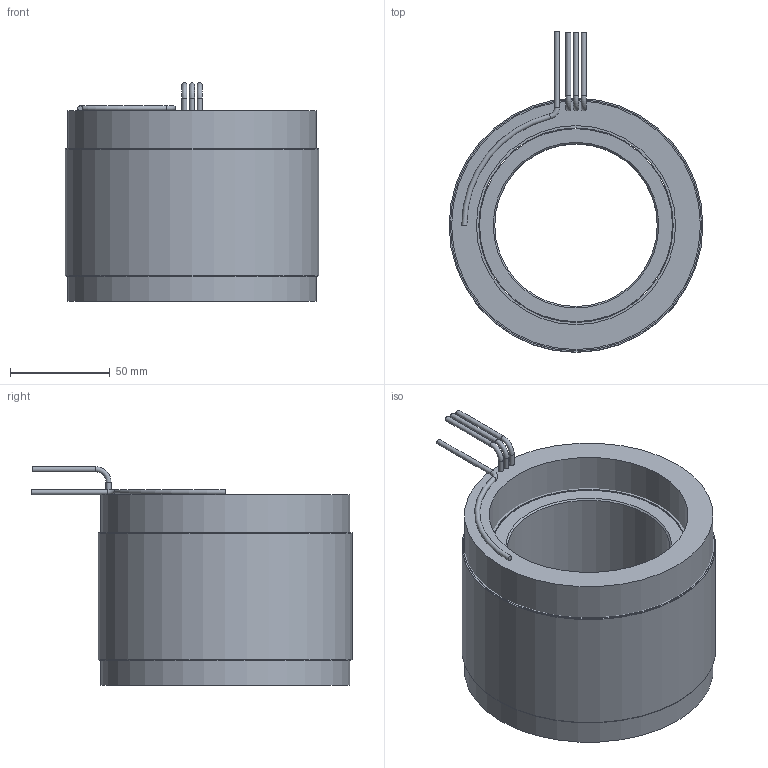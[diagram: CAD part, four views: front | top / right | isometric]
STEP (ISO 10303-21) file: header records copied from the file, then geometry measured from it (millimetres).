
FILE_DESCRIPTION (( 'STEP AP214' ), '1' );
FILE_NAME ('6100398-05.STEP', '2020-12-27T03:07:50', ( '' ), ( '' ), 'SwSTEP 2.0', 'SolidWorks 2016', '' );
FILE_SCHEMA (( 'AUTOMOTIVE_DESIGN' ));
Length unit declared in the file: inch
Products named in the file (10): 4600570-00; 4450194-XX_4450194-05; 4250386-XX_4250386-05; 4400106-00; 4150184-XX_4150184-05; 6100398-05; 4500563-XX_4500563-05; COMP4500563-XX(COIL)_COMP4500563-05(COIL)
Assembly tree (10 placements, depth 4):
  6100398-05
    4250386-XX_4250386-05
      4150184-XX_4150184-05
    4500563-XX_4500563-05
      COMP4500563-XX(COIL)_COMP4500563-05(COIL)
      4450194-XX_4450194-05
        4450194-XX_4450194-05
        4400106-00
        4400106-00
        4600570-00  x2
Bounding box: 127 x 160.29 x 109.22 mm (x, y, z)
Volume: 888446.4 mm3; surface area: 213843.4 mm2
Topology: 8 solids, 8 shells, 47 faces, 74 edges, 46 vertices
Faces by surface type: cylinder 21, plane 19, torus 5, cone 2
Full cylindrical faces by diameter (mm): 2.54 x7, 81.28 x1, 96.52 x1, 97.282 x5, 99.568 x1, 124.46 x1, 125.73 x2, 127 x3
Entity records: 1305 total; most frequent: DIRECTION 202, CARTESIAN_POINT 143, AXIS2_PLACEMENT_3D 101, EDGE_LOOP 84, ORIENTED_EDGE 84, FACE_OUTER_BOUND 67, ADVANCED_FACE 43, EDGE_CURVE 42
